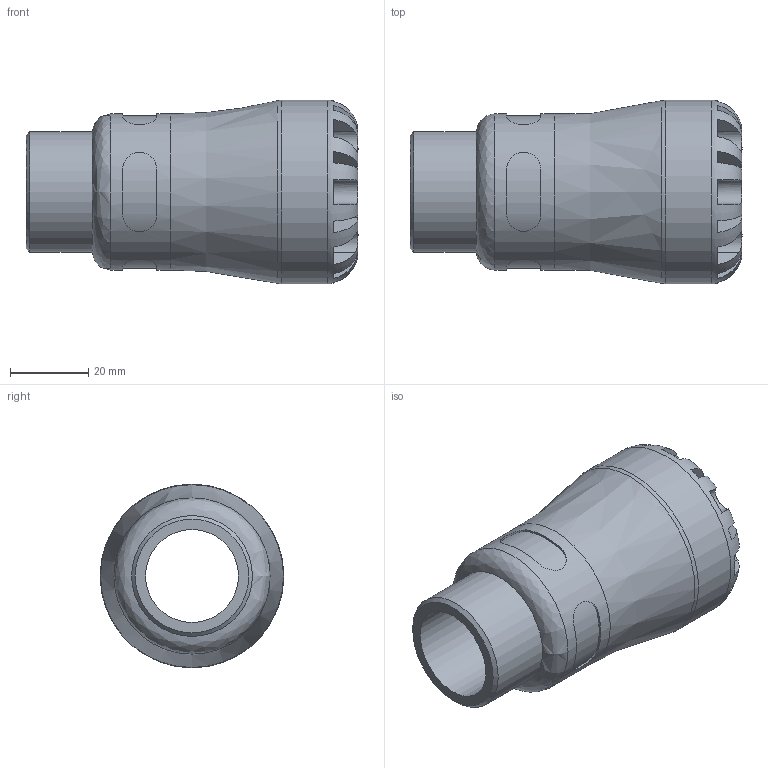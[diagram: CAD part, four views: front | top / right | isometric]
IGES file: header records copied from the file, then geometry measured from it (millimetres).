
Global section: file name: 107200025010_197200025010.ipt; native system: Autodesk Inventor 2015; preprocessor: unknown; author: KIM; date: 20170122.104925; units: millimetre
Bounding box: 85 x 47 x 47 mm (x, y, z)
Volume: 67095 mm3; surface area: 19907.5 mm2
Topology: 1 solids, 1 shells, 98 faces, 254 edges, 162 vertices
Faces by surface type: plane 59, revolution 23, cylinder 15, cone 1
Full cylindrical faces by diameter (mm): 30.931 x1, 39.95 x1, 47 x1
